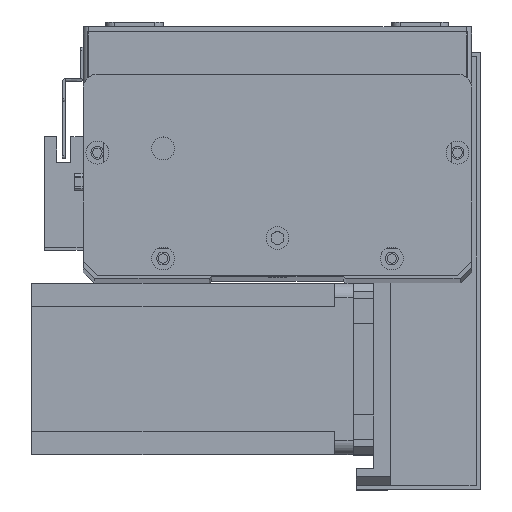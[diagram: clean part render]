
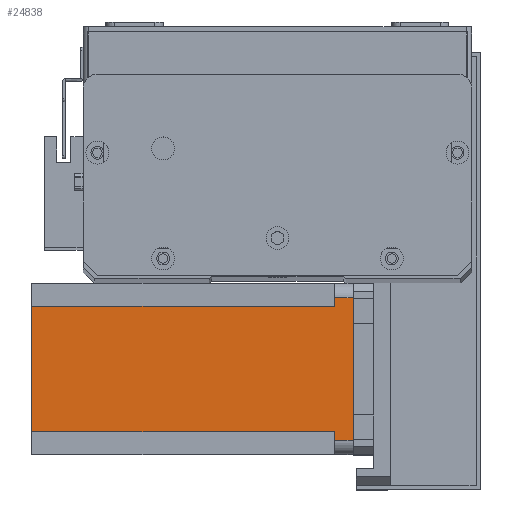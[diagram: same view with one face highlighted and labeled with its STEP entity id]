
A CAD part, top view. The second image highlights one B-rep face of the part: STEP entity #24838.
In plain terms, the highlighted planar face has unit normal (0, 0, 1) as drawn and (0, -1, 0) by its records, which use the part's own axes.
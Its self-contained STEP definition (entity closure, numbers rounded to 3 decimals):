
#140 = CARTESIAN_POINT ( 'NONE',  ( 0., 0., 0. ) ) ;
#218 = VERTEX_POINT ( 'NONE', #12338 ) ;
#794 = VECTOR ( 'NONE', #22345, 1000. ) ;
#992 = LINE ( 'NONE', #3750, #13719 ) ;
#1246 = CARTESIAN_POINT ( 'NONE',  ( 8., 0., -112.5 ) ) ;
#1775 = CARTESIAN_POINT ( 'NONE',  ( 8., 0., -6.5 ) ) ;
#2149 = DIRECTION ( 'NONE',  ( 0., 0., -1. ) ) ;
#2191 = ORIENTED_EDGE ( 'NONE', *, *, #19392, .T. ) ;
#2430 = VECTOR ( 'NONE', #2149, 1000. ) ;
#3750 = CARTESIAN_POINT ( 'NONE',  ( 8., 0., -6.5 ) ) ;
#4283 = VERTEX_POINT ( 'NONE', #22138 ) ;
#5300 = AXIS2_PLACEMENT_3D ( 'NONE', #17650, #26698, #13345 ) ;
#5665 = LINE ( 'NONE', #22866, #11674 ) ;
#5676 = CARTESIAN_POINT ( 'NONE',  ( 52., 0., -6.5 ) ) ;
#6138 = VECTOR ( 'NONE', #7961, 1000. ) ;
#6275 = ORIENTED_EDGE ( 'NONE', *, *, #20888, .F. ) ;
#6310 = ORIENTED_EDGE ( 'NONE', *, *, #15715, .F. ) ;
#6852 = DIRECTION ( 'NONE',  ( 1., 0., 0. ) ) ;
#6920 = LINE ( 'NONE', #24360, #28576 ) ;
#7510 = LINE ( 'NONE', #20056, #794 ) ;
#7856 = VERTEX_POINT ( 'NONE', #21732 ) ;
#7895 = CARTESIAN_POINT ( 'NONE',  ( 5., 0., -6.5 ) ) ;
#7961 = DIRECTION ( 'NONE',  ( 1., 0., 0. ) ) ;
#8819 = VERTEX_POINT ( 'NONE', #7895 ) ;
#8837 = PLANE ( 'NONE',  #5300 ) ;
#9410 = VECTOR ( 'NONE', #6852, 1000. ) ;
#11674 = VECTOR ( 'NONE', #11675, 1000. ) ;
#11675 = DIRECTION ( 'NONE',  ( 0., 0., 1. ) ) ;
#12034 = CARTESIAN_POINT ( 'NONE',  ( 55., 0., 0. ) ) ;
#12338 = CARTESIAN_POINT ( 'NONE',  ( 52., 0., -112.5 ) ) ;
#13345 = DIRECTION ( 'NONE',  ( 0., 0., -1. ) ) ;
#13719 = VECTOR ( 'NONE', #19542, 1000. ) ;
#15669 = CARTESIAN_POINT ( 'NONE',  ( 5., 0., -112.5 ) ) ;
#15700 = DIRECTION ( 'NONE',  ( 1., 0., 0. ) ) ;
#15715 = EDGE_CURVE ( 'NONE', #4283, #23708, #16035, .T. ) ;
#15781 = ORIENTED_EDGE ( 'NONE', *, *, #19764, .T. ) ;
#16035 = LINE ( 'NONE', #140, #9410 ) ;
#16252 = ORIENTED_EDGE ( 'NONE', *, *, #22952, .T. ) ;
#16665 = ORIENTED_EDGE ( 'NONE', *, *, #17331, .T. ) ;
#17091 = VECTOR ( 'NONE', #15700, 1000. ) ;
#17293 = EDGE_LOOP ( 'NONE', ( #16665, #2191, #6310, #15781, #6275, #20936, #16252, #22429 ) ) ;
#17331 = EDGE_CURVE ( 'NONE', #20729, #7856, #18100, .T. ) ;
#17650 = CARTESIAN_POINT ( 'NONE',  ( 0., 0., -112.5 ) ) ;
#18100 = LINE ( 'NONE', #5676, #6138 ) ;
#18703 = FACE_OUTER_BOUND ( 'NONE', #17293, .T. ) ;
#19392 = EDGE_CURVE ( 'NONE', #7856, #23708, #5665, .T. ) ;
#19542 = DIRECTION ( 'NONE',  ( -1., 0., 0. ) ) ;
#19713 = LINE ( 'NONE', #15669, #2430 ) ;
#19764 = EDGE_CURVE ( 'NONE', #4283, #8819, #19713, .T. ) ;
#19865 = DIRECTION ( 'NONE',  ( 0., 0., 1. ) ) ;
#20056 = CARTESIAN_POINT ( 'NONE',  ( 52., 0., -112.5 ) ) ;
#20729 = VERTEX_POINT ( 'NONE', #23568 ) ;
#20888 = EDGE_CURVE ( 'NONE', #24810, #8819, #992, .T. ) ;
#20936 = ORIENTED_EDGE ( 'NONE', *, *, #22247, .F. ) ;
#21732 = CARTESIAN_POINT ( 'NONE',  ( 55., 0., -6.5 ) ) ;
#22138 = CARTESIAN_POINT ( 'NONE',  ( 5., 0., 0. ) ) ;
#22247 = EDGE_CURVE ( 'NONE', #26969, #24810, #6920, .T. ) ;
#22345 = DIRECTION ( 'NONE',  ( 0., 0., -1. ) ) ;
#22429 = ORIENTED_EDGE ( 'NONE', *, *, #24053, .F. ) ;
#22866 = CARTESIAN_POINT ( 'NONE',  ( 55., 0., -112.5 ) ) ;
#22952 = EDGE_CURVE ( 'NONE', #26969, #218, #23060, .T. ) ;
#23060 = LINE ( 'NONE', #28972, #17091 ) ;
#23568 = CARTESIAN_POINT ( 'NONE',  ( 52., 0., -6.5 ) ) ;
#23708 = VERTEX_POINT ( 'NONE', #12034 ) ;
#24053 = EDGE_CURVE ( 'NONE', #20729, #218, #7510, .T. ) ;
#24360 = CARTESIAN_POINT ( 'NONE',  ( 8., 0., -112.5 ) ) ;
#24810 = VERTEX_POINT ( 'NONE', #1775 ) ;
#24838 = ADVANCED_FACE ( 'NONE', ( #18703 ), #8837, .T. ) ;
#26698 = DIRECTION ( 'NONE',  ( 0., -1., 0. ) ) ;
#26969 = VERTEX_POINT ( 'NONE', #1246 ) ;
#28576 = VECTOR ( 'NONE', #19865, 1000. ) ;
#28972 = CARTESIAN_POINT ( 'NONE',  ( 0., 0., -112.5 ) ) ;
